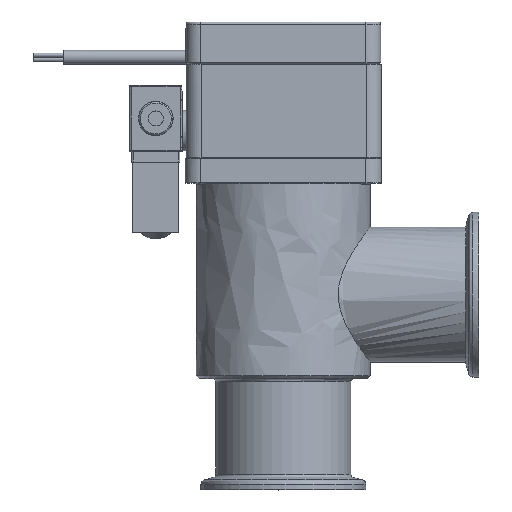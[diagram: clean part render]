
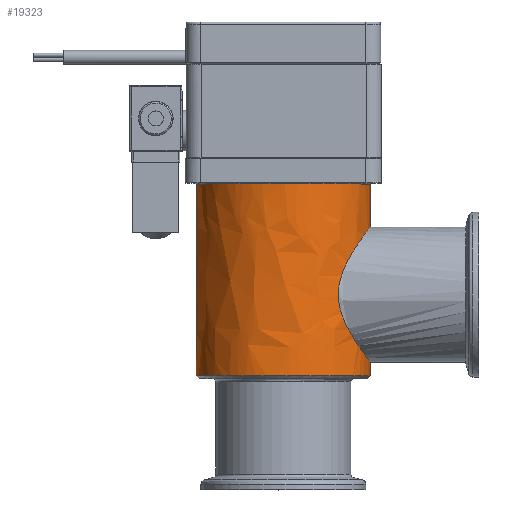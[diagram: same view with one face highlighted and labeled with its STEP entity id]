
A CAD part, top view. The second image highlights one B-rep face of the part: STEP entity #19323.
In plain terms, the highlighted free-form (B-spline) face has degree [2, 1] with [7, 2] control points.
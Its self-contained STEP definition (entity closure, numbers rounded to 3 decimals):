
#18636=CARTESIAN_POINT('V34',(38.,28.95,
   0.0));
#18637=VERTEX_POINT('V34',#18636);
#18645=CARTESIAN_POINT('E59',(38.,28.95,
   0.));
#18646=CARTESIAN_POINT('E59',(38.,28.95,
   50.143));
#18647=CARTESIAN_POINT('E59',(38.,-14.475,
   25.071));
#18648=CARTESIAN_POINT('E59',(38.,-57.9,
   0.));
#18649=CARTESIAN_POINT('E59',(38.,-14.475,
   -25.071));
#18650=CARTESIAN_POINT('E59',(38.,28.95,
   -50.143));
#18651=CARTESIAN_POINT('E59',(38.,28.95,
   0.));
#18659=(BOUNDED_CURVE()B_SPLINE_CURVE(2,(#18645,#18646,#18647,
   #18648,#18649,#18650,#18651),.CIRCULAR_ARC.,.T.,.U.)
   B_SPLINE_CURVE_WITH_KNOTS((3,2,2,3),(2.0,43.393,
   84.786,126.179),.UNSPECIFIED.)CURVE()
   GEOMETRIC_REPRESENTATION_ITEM()RATIONAL_B_SPLINE_CURVE((1.0,
   0.5,1.0,0.5,1.0,0.5,1.0)
   )REPRESENTATION_ITEM('E59'));
#18660=EDGE_CURVE('E59',#18637,#18637,#18659,.T.);
#19197=CARTESIAN_POINT('V17',(102.,28.95,
   0.0));
#19198=VERTEX_POINT('V17',#19197);
#19206=CARTESIAN_POINT('E27',(102.,28.95,
   0.0));
#19207=CARTESIAN_POINT('E27',(102.0,28.95,
   -50.143));
#19208=CARTESIAN_POINT('E27',(102.,
   -14.475,-25.071));
#19209=CARTESIAN_POINT('E27',(102.0,-57.9,
   0.));
#19210=CARTESIAN_POINT('E27',(102.,
   -14.475,25.071));
#19211=CARTESIAN_POINT('E27',(102.0,28.95,
   50.143));
#19212=CARTESIAN_POINT('E27',(102.,28.95,
   0.0));
#19220=(BOUNDED_CURVE()B_SPLINE_CURVE(2,(#19206,#19207,#19208,
   #19209,#19210,#19211,#19212),.CIRCULAR_ARC.,.T.,.U.)
   B_SPLINE_CURVE_WITH_KNOTS((3,2,2,3),(0.0,355.788,
   711.577,1067.365),.UNSPECIFIED.)CURVE()
   GEOMETRIC_REPRESENTATION_ITEM()RATIONAL_B_SPLINE_CURVE((1.0,
   0.5,1.0,0.5,1.0,0.5,1.0)
   )REPRESENTATION_ITEM('E27'));
#19221=EDGE_CURVE('E27',#19198,#19198,#19220,.T.);
#19226=CARTESIAN_POINT('F27',(37.,28.95,
   0.0));
#19227=CARTESIAN_POINT('F27',(37.,28.95,
   50.143));
#19228=CARTESIAN_POINT('F27',(37.,-14.475,
   25.071));
#19229=CARTESIAN_POINT('F27',(37.,-57.9,
   0.));
#19230=CARTESIAN_POINT('F27',(37.,-14.475,
   -25.071));
#19231=CARTESIAN_POINT('F27',(37.,28.95,
   -50.143));
#19232=CARTESIAN_POINT('F27',(37.,28.95,
   0.0));
#19233=CARTESIAN_POINT('F27',(102.,28.95,
   0.0));
#19234=CARTESIAN_POINT('F27',(102.0,28.95,
   50.143));
#19235=CARTESIAN_POINT('F27',(102.,
   -14.475,25.071));
#19236=CARTESIAN_POINT('F27',(102.0,-57.9,
   0.));
#19237=CARTESIAN_POINT('F27',(102.,
   -14.475,-25.071));
#19238=CARTESIAN_POINT('F27',(102.0,28.95,
   -50.143));
#19239=CARTESIAN_POINT('F27',(102.,28.95,
   0.0));
#19247=(BOUNDED_SURFACE()B_SPLINE_SURFACE(2,1,((#19226,#19233),(
   #19227,#19234),(#19228,#19235),(#19229,#19236),(#19230,
   #19237),(#19231,#19238),(#19232,#19239)),.CYLINDRICAL_SURF.,
   .T.,.F.,.U.)B_SPLINE_SURFACE_WITH_KNOTS((3,2,2,3),(2,2),(0.0,
   1.543,3.086,4.629),(0.0,1.0),
   .UNSPECIFIED.)GEOMETRIC_REPRESENTATION_ITEM()
   RATIONAL_B_SPLINE_SURFACE(((1.0,1.0),(0.5,
   0.5),(1.0,1.0),(0.5,
   0.5),(1.0,1.0),(0.5,
   0.5),(1.0,1.0)))REPRESENTATION_ITEM('F27')SURFACE(
   ));
#19248=ORIENTED_EDGE('E59',*,*,#18660,.F.);
#19249=CARTESIAN_POINT('V32',(45.,28.95,
   0.0));
#19250=VERTEX_POINT('V32',#19249);
#19251=CARTESIAN_POINT('E52',(45.,28.95,
   0.0));
#19252=CARTESIAN_POINT('E52',(38.,28.95,
   0.0));
#19253=B_SPLINE_CURVE_WITH_KNOTS('E52',1,(#19251,#19252),
   .POLYLINE_FORM.,.F.,.U.,(2,2),(0.877,
   0.985),.UNSPECIFIED.);
#19254=EDGE_CURVE('E52',#19250,#18637,#19253,.T.);
#19255=ORIENTED_EDGE('E52',*,*,#19254,.F.);
#19256=CARTESIAN_POINT('V31',(65.0,20.931,
   20.));
#19257=VERTEX_POINT('V31',#19256);
#19258=CARTESIAN_POINT('E51',(65.0,20.931,
   20.));
#19259=CARTESIAN_POINT('E51',(64.201,20.931,
   20.));
#19260=CARTESIAN_POINT('E51',(63.408,20.977,
   19.952));
#19261=CARTESIAN_POINT('E51',(59.932,21.369,
   19.536));
#19262=CARTESIAN_POINT('E51',(57.478,22.158,
   18.689));
#19263=CARTESIAN_POINT('E51',(53.132,23.977,
   16.297));
#19264=CARTESIAN_POINT('E51',(51.059,25.111,
   14.603));
#19265=CARTESIAN_POINT('E51',(47.714,27.115,
   10.395));
#19266=CARTESIAN_POINT('E51',(46.315,28.052,
   7.802));
#19267=CARTESIAN_POINT('E51',(45.192,28.816,
   3.188));
#19268=CARTESIAN_POINT('E51',(45.,28.95,
   1.603));
#19269=CARTESIAN_POINT('E51',(45.,28.95,
   0.0));
#19270=B_SPLINE_CURVE_WITH_KNOTS('E51',3,(#19258,#19259,#19260,
   #19261,#19262,#19263,#19264,#19265,#19266,#19267,#19268,#19269),
   .UNSPECIFIED.,.F.,.U.,(4,2,2,2,2,4),(0.0,0.076,
   0.337,0.61,0.87,1.0),
   .UNSPECIFIED.);
#19271=EDGE_CURVE('E51',#19257,#19250,#19270,.T.);
#19272=ORIENTED_EDGE('E51',*,*,#19271,.F.);
#19273=CARTESIAN_POINT('V33',(85.0,28.95,0.0));
#19274=VERTEX_POINT('V33',#19273);
#19275=CARTESIAN_POINT('E55',(85.,28.95,
   0.0));
#19276=CARTESIAN_POINT('E55',(85.,28.95,
   1.628));
#19277=CARTESIAN_POINT('E55',(84.802,28.812,
   3.236));
#19278=CARTESIAN_POINT('E55',(84.055,28.304,
   6.261));
#19279=CARTESIAN_POINT('E55',(83.534,27.953,
   7.658));
#19280=CARTESIAN_POINT('E55',(81.427,26.585,
   11.857));
#19281=CARTESIAN_POINT('E55',(79.397,25.33,
   14.167));
#19282=CARTESIAN_POINT('E55',(74.753,22.998,
   17.721));
#19283=CARTESIAN_POINT('E55',(71.917,21.837,
   19.025));
#19284=CARTESIAN_POINT('E55',(67.587,21.054,
   19.874));
#19285=CARTESIAN_POINT('E55',(66.303,20.931,
   20.));
#19286=CARTESIAN_POINT('E55',(65.0,20.931,
   20.));
#19287=B_SPLINE_CURVE_WITH_KNOTS('E55',3,(#19275,#19276,#19277,
   #19278,#19279,#19280,#19281,#19282,#19283,#19284,#19285,#19286),
   .UNSPECIFIED.,.F.,.U.,(4,2,2,2,2,4),(0.0,0.14,
   0.272,0.561,0.872,1.0),
   .UNSPECIFIED.);
#19288=EDGE_CURVE('E55',#19274,#19257,#19287,.T.);
#19289=ORIENTED_EDGE('E55',*,*,#19288,.F.);
#19290=CARTESIAN_POINT('E54',(102.,28.95,
   0.0));
#19291=CARTESIAN_POINT('E54',(85.,28.95,
   0.0));
#19292=B_SPLINE_CURVE_WITH_KNOTS('E54',1,(#19290,#19291),
   .POLYLINE_FORM.,.F.,.U.,(2,2),(0.0,0.262),
   .UNSPECIFIED.);
#19293=EDGE_CURVE('E54',#19198,#19274,#19292,.T.);
#19294=ORIENTED_EDGE('E54',*,*,#19293,.F.);
#19295=ORIENTED_EDGE('F15',*,*,#19221,.F.);
#19296=ORIENTED_EDGE('E54',*,*,#19293,.T.);
#19297=CARTESIAN_POINT('E53',(45.,28.95,
   0.0));
#19298=CARTESIAN_POINT('E53',(45.,28.95,
   -1.87));
#19299=CARTESIAN_POINT('E53',(45.261,28.768,
   -3.714));
#19300=CARTESIAN_POINT('E53',(46.097,28.202,
   -6.643));
#19301=CARTESIAN_POINT('E53',(46.526,27.915,
   -7.752));
#19302=CARTESIAN_POINT('E53',(48.505,26.626,
   -11.788));
#19303=CARTESIAN_POINT('E53',(50.587,25.336,
   -14.162));
#19304=CARTESIAN_POINT('E53',(55.379,22.935,
   -17.813));
#19305=CARTESIAN_POINT('E53',(58.355,21.727,
   -19.147));
#19306=CARTESIAN_POINT('E53',(63.018,20.977,
   -19.954));
#19307=CARTESIAN_POINT('E53',(64.465,20.887,
   -20.047));
#19308=CARTESIAN_POINT('E53',(68.889,21.083,
   -19.841));
#19309=CARTESIAN_POINT('E53',(71.524,21.831,
   -19.062));
#19310=CARTESIAN_POINT('E53',(76.721,23.828,
   -16.547));
#19311=CARTESIAN_POINT('E53',(79.516,25.419,
   -14.257));
#19312=CARTESIAN_POINT('E53',(82.806,27.464,
   -9.36));
#19313=CARTESIAN_POINT('E53',(83.831,28.151,
   -7.205));
#19314=CARTESIAN_POINT('E53',(84.808,28.816,
   -3.188));
#19315=CARTESIAN_POINT('E53',(85.,28.95,
   -1.603));
#19316=CARTESIAN_POINT('E53',(85.,28.95,
   0.0));
#19317=B_SPLINE_CURVE_WITH_KNOTS('E53',3,(#19297,#19298,#19299,
   #19300,#19301,#19302,#19303,#19304,#19305,#19306,#19307,#19308,
   #19309,#19310,#19311,#19312,#19313,#19314,#19315,#19316),
   .UNSPECIFIED.,.F.,.U.,(4,2,2,2,2,2,2,2,2,4),(0.0,
   0.077,0.128,0.27,
   0.425,0.493,0.631,
   0.821,0.932,1.0),.UNSPECIFIED.);
#19318=EDGE_CURVE('E53',#19250,#19274,#19317,.T.);
#19319=ORIENTED_EDGE('E53',*,*,#19318,.F.);
#19320=ORIENTED_EDGE('E52',*,*,#19254,.T.);
#19321=EDGE_LOOP('F27',(#19248,#19255,#19272,#19289,#19294,#19295,
   #19296,#19319,#19320));
#19322=FACE_OUTER_BOUND('F27',#19321,.F.);
#19323=ADVANCED_FACE('F27',(#19322),#19247,.T.);
